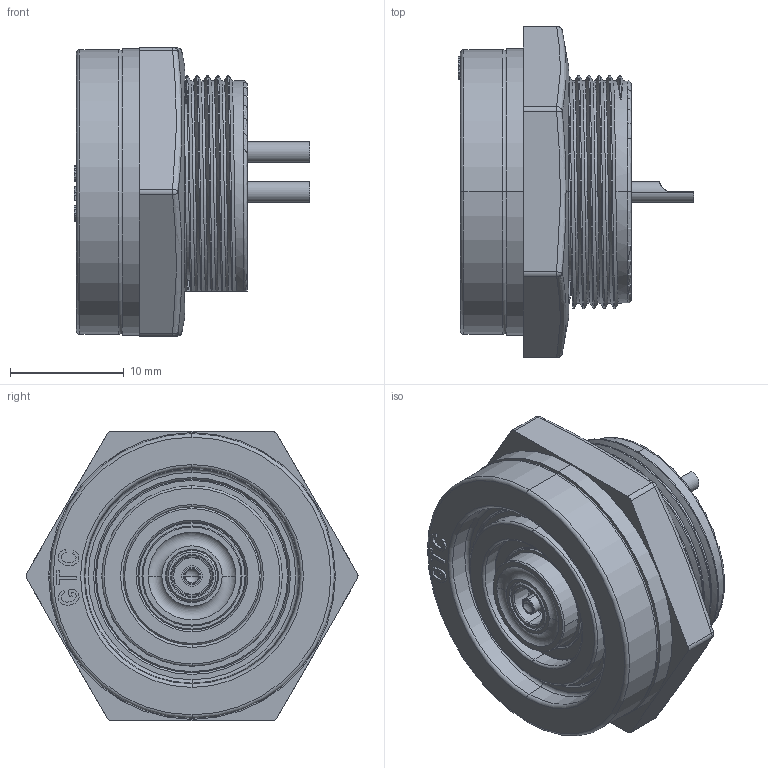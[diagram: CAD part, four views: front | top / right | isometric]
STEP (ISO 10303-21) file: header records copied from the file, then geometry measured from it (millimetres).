
FILE_DESCRIPTION (( 'STEP AP203' ), '1' );
FILE_NAME ('GT193000-02020_01.STEP', '2018-02-13T04:15:03', ( '' ), ( '' ), 'SwSTEP 2.0', 'SolidWorks 2012', '' );
FILE_SCHEMA (( 'CONFIG_CONTROL_DESIGN' ));
Length unit declared in the file: millimetre
Products named in the file (1): GT193000-02020_01
Bounding box: 20.7 x 29.17 x 25.4 mm (x, y, z)
Surface area: 4250.9 mm2 (no closed solid volume)
Topology: 0 solids, 12 shells, 318 faces, 998 edges, 685 vertices
Faces by surface type: plane 173, cylinder 58, cone 29, bspline 28, torus 22, sphere 8
Entity records: 18930 total; most frequent: CARTESIAN_POINT 10801, ORIENTED_EDGE 1757, DIRECTION 1444, EDGE_CURVE 990, VERTEX_POINT 683, AXIS2_PLACEMENT_3D 485, VECTOR 474, LINE 474
